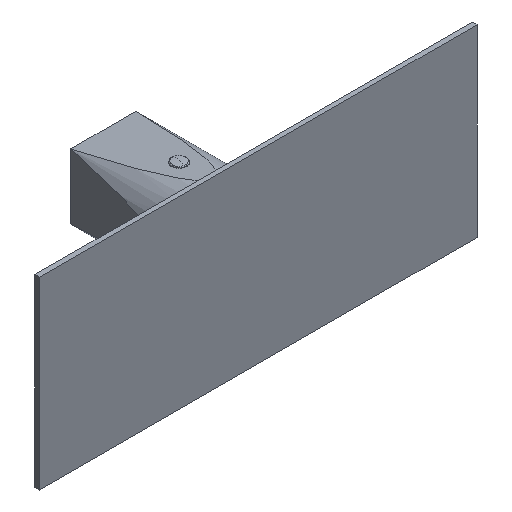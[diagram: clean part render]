
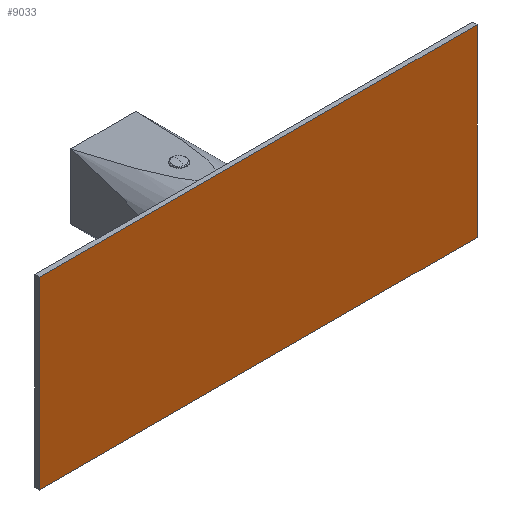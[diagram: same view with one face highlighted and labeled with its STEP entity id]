
A CAD part, isometric view. The second image highlights one B-rep face of the part: STEP entity #9033.
In plain terms, the highlighted planar face has unit normal (0, -1, 0).
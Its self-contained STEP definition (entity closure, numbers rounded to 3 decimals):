
#1911=DIRECTION('',(0.,0.,1.));
#1912=VECTOR('',#1911,80.);
#1913=CARTESIAN_POINT('',(-95.,94.4,-40.));
#1914=LINE('',#1913,#1912);
#1915=DIRECTION('',(1.,0.,0.));
#1916=VECTOR('',#1915,190.);
#1917=CARTESIAN_POINT('',(-95.,94.4,40.));
#1918=LINE('',#1917,#1916);
#1919=DIRECTION('',(0.,0.,-1.));
#1920=VECTOR('',#1919,80.);
#1921=CARTESIAN_POINT('',(95.,94.4,40.));
#1922=LINE('',#1921,#1920);
#1923=DIRECTION('',(-1.,0.,0.));
#1924=VECTOR('',#1923,190.);
#1925=CARTESIAN_POINT('',(95.,94.4,-40.));
#1926=LINE('',#1925,#1924);
#6578=CARTESIAN_POINT('',(-95.,94.4,-40.));
#6579=CARTESIAN_POINT('',(-95.,94.4,40.));
#6580=VERTEX_POINT('',#6578);
#6581=VERTEX_POINT('',#6579);
#6582=CARTESIAN_POINT('',(95.,94.4,40.));
#6583=VERTEX_POINT('',#6582);
#6584=CARTESIAN_POINT('',(95.,94.4,-40.));
#6585=VERTEX_POINT('',#6584);
#9019=CARTESIAN_POINT('',(0.,94.4,0.));
#9020=DIRECTION('',(0.,-1.,0.));
#9021=DIRECTION('',(-1.,0.,0.));
#9022=AXIS2_PLACEMENT_3D('',#9019,#9020,#9021);
#9023=PLANE('',#9022);
#9024=ORIENTED_EDGE('',*,*,#9009,.T.);
#9026=ORIENTED_EDGE('',*,*,#9025,.T.);
#9028=ORIENTED_EDGE('',*,*,#9027,.T.);
#9030=ORIENTED_EDGE('',*,*,#9029,.T.);
#9031=EDGE_LOOP('',(#9024,#9026,#9028,#9030));
#9032=FACE_OUTER_BOUND('',#9031,.F.);
#9033=ADVANCED_FACE('',(#9032),#9023,.T.);
#9009=EDGE_CURVE('',#6580,#6581,#1914,.T.);
#9025=EDGE_CURVE('',#6581,#6583,#1918,.T.);
#9027=EDGE_CURVE('',#6583,#6585,#1922,.T.);
#9029=EDGE_CURVE('',#6585,#6580,#1926,.T.);
